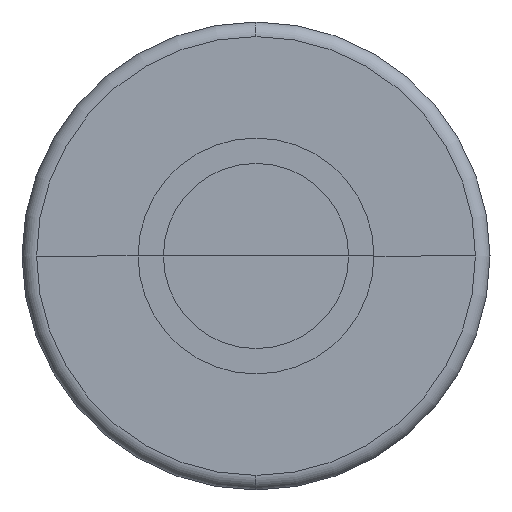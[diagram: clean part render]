
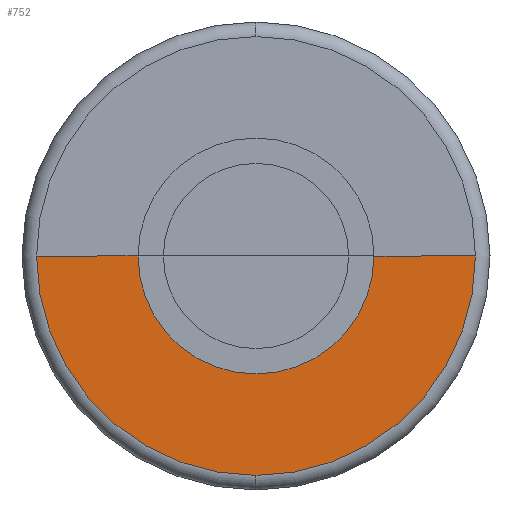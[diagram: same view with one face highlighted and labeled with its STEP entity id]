
A CAD part, left-side view. The second image highlights one B-rep face of the part: STEP entity #752.
In plain terms, the highlighted planar face has unit normal (-1, 0, 0).
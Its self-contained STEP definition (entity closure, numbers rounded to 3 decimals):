
#5 = VECTOR ( 'NONE', #693, 1000. ) ;
#37 = ORIENTED_EDGE ( 'NONE', *, *, #930, .T. ) ;
#49 = CARTESIAN_POINT ( 'NONE',  ( -32.2, 0., -15.05 ) ) ;
#55 = CARTESIAN_POINT ( 'NONE',  ( -32.2, 0., 0. ) ) ;
#64 = ORIENTED_EDGE ( 'NONE', *, *, #79, .T. ) ;
#67 = CARTESIAN_POINT ( 'NONE',  ( -32.2, 0., 0. ) ) ;
#76 = DIRECTION ( 'NONE',  ( 0., 1., 0. ) ) ;
#79 = EDGE_CURVE ( 'NONE', #1142, #738, #705, .T. ) ;
#92 = VECTOR ( 'NONE', #76, 1000. ) ;
#140 = EDGE_CURVE ( 'NONE', #738, #264, #326, .T. ) ;
#179 = DIRECTION ( 'NONE',  ( -1., 0., 0. ) ) ;
#264 = VERTEX_POINT ( 'NONE', #1083 ) ;
#278 = EDGE_CURVE ( 'NONE', #820, #1142, #776, .T. ) ;
#284 = PLANE ( 'NONE',  #417 ) ;
#326 = LINE ( 'NONE', #1527, #5 ) ;
#339 = EDGE_LOOP ( 'NONE', ( #606, #766, #64, #1511, #37 ) ) ;
#352 = DIRECTION ( 'NONE',  ( -1., 0., 0. ) ) ;
#417 = AXIS2_PLACEMENT_3D ( 'NONE', #55, #179, #542 ) ;
#542 = DIRECTION ( 'NONE',  ( 0., 1., 0. ) ) ;
#606 = ORIENTED_EDGE ( 'NONE', *, *, #789, .T. ) ;
#644 = FACE_OUTER_BOUND ( 'NONE', #339, .T. ) ;
#693 = DIRECTION ( 'NONE',  ( 0., 1., 0. ) ) ;
#701 = DIRECTION ( 'NONE',  ( 0., -1., 0. ) ) ;
#705 = CIRCLE ( 'NONE', #1415, 15.05 ) ;
#725 = CARTESIAN_POINT ( 'NONE',  ( -32.2, 0., 0. ) ) ;
#738 = VERTEX_POINT ( 'NONE', #1357 ) ;
#752 = ADVANCED_FACE ( 'NONE', ( #644 ), #284, .T. ) ;
#766 = ORIENTED_EDGE ( 'NONE', *, *, #278, .T. ) ;
#776 = CIRCLE ( 'NONE', #1306, 15.05 ) ;
#789 = EDGE_CURVE ( 'NONE', #1250, #820, #1273, .T. ) ;
#820 = VERTEX_POINT ( 'NONE', #1500 ) ;
#909 = CIRCLE ( 'NONE', #1372, 8.09 ) ;
#930 = EDGE_CURVE ( 'NONE', #264, #1250, #909, .T. ) ;
#949 = CARTESIAN_POINT ( 'NONE',  ( -32.2, 0., 0. ) ) ;
#1075 = DIRECTION ( 'NONE',  ( -1., 0., 0. ) ) ;
#1083 = CARTESIAN_POINT ( 'NONE',  ( -32.2, -8.09, 0. ) ) ;
#1142 = VERTEX_POINT ( 'NONE', #49 ) ;
#1147 = DIRECTION ( 'NONE',  ( 1., 0., 0. ) ) ;
#1195 = DIRECTION ( 'NONE',  ( 0., -1., 0. ) ) ;
#1250 = VERTEX_POINT ( 'NONE', #1368 ) ;
#1273 = LINE ( 'NONE', #1405, #92 ) ;
#1306 = AXIS2_PLACEMENT_3D ( 'NONE', #725, #1075, #1427 ) ;
#1357 = CARTESIAN_POINT ( 'NONE',  ( -32.2, -15.05, 0. ) ) ;
#1368 = CARTESIAN_POINT ( 'NONE',  ( -32.2, 8.09, 0. ) ) ;
#1372 = AXIS2_PLACEMENT_3D ( 'NONE', #67, #1147, #701 ) ;
#1405 = CARTESIAN_POINT ( 'NONE',  ( -32.2, 8.09, 0. ) ) ;
#1415 = AXIS2_PLACEMENT_3D ( 'NONE', #949, #352, #1195 ) ;
#1427 = DIRECTION ( 'NONE',  ( 0., -1., 0. ) ) ;
#1500 = CARTESIAN_POINT ( 'NONE',  ( -32.2, 15.05, 0. ) ) ;
#1511 = ORIENTED_EDGE ( 'NONE', *, *, #140, .T. ) ;
#1527 = CARTESIAN_POINT ( 'NONE',  ( -32.2, -15.05, 0. ) ) ;
